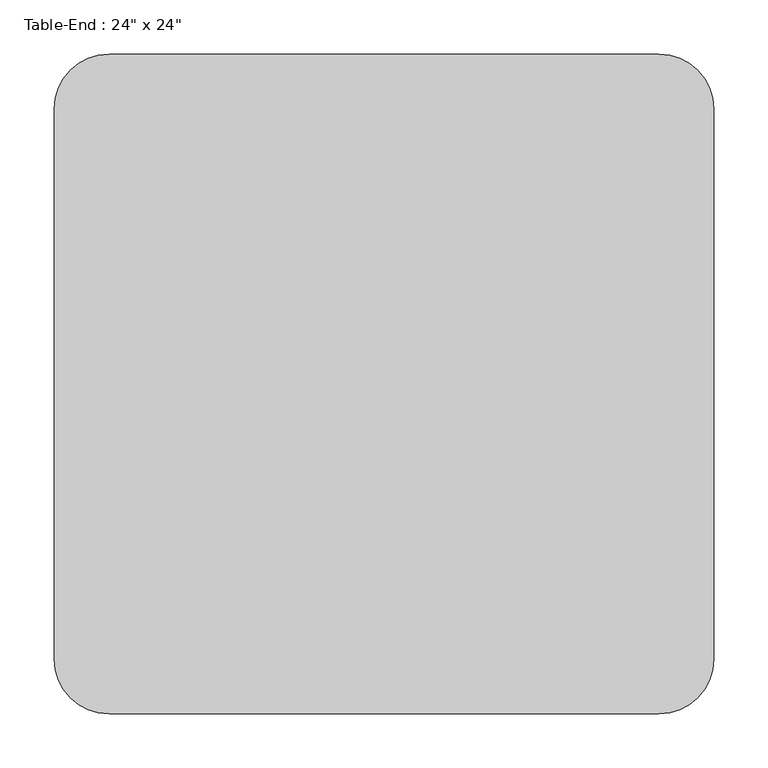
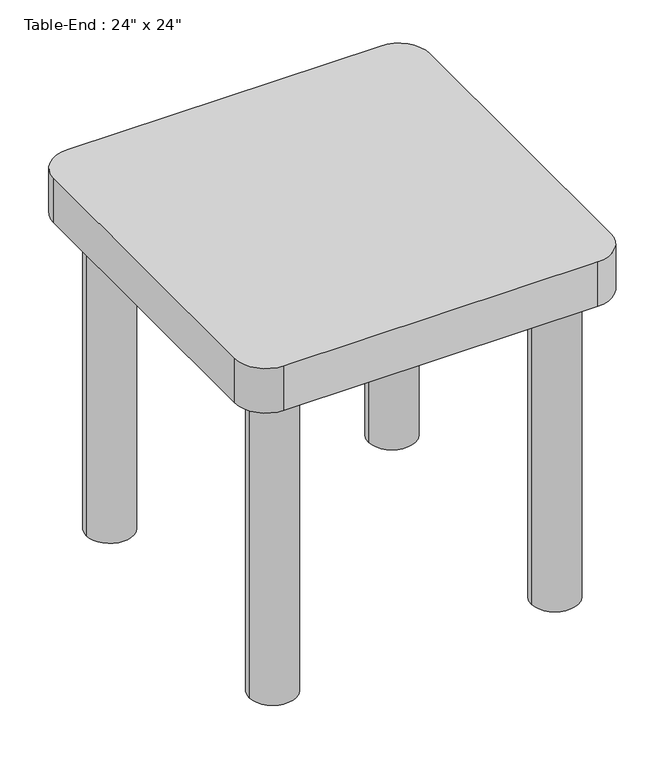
"""IFC4 building model written with IfcOpenShell, lengths in millimetres: furniture geometry."""

from ifc_helpers import new_model, si_unit, point, frame, frame_2d, origin, origin_with_axes, place, context, project, spatial, polyline, circle_curve, trimmed, segment, composite_curve, outline, extrude, source, transform, mapped, element, save


def furniture_60c3fc03(model_context):
    return source(origin(), model_context, "Body", "SweptSolid", [
        extrude(outline(composite_curve([segment(trimmed(circle_curve(frame_2d((562.5336303, 101.6)), 50.8), [point((562.5336303, 152.4))], [point((613.3336303, 101.6))], False, "CARTESIAN"), True, "CONTINUOUS"), segment(polyline([(613.3336303, 101.6), (613.3336303, -406.4)]), True, "CONTINUOUS"), segment(trimmed(circle_curve(frame_2d((562.5336303, -406.4)), 50.8), [point((613.3336303, -406.4))], [point((562.5336303, -457.2))], False, "CARTESIAN"), True, "CONTINUOUS"), segment(polyline([(562.5336303, -457.2), (54.5336303, -457.2)]), True, "CONTINUOUS"), segment(trimmed(circle_curve(frame_2d((54.5336303, -406.4)), 50.8), [point((54.5336303, -457.2))], [point((3.7336303, -406.4))], False, "CARTESIAN"), True, "CONTINUOUS"), segment(polyline([(3.7336303, -406.4), (3.7336303, 101.6)]), True, "CONTINUOUS"), segment(trimmed(circle_curve(frame_2d((54.5336303, 101.6)), 50.8), [point((3.7336303, 101.6))], [point((54.5336303, 152.4))], False, "CARTESIAN"), True, "CONTINUOUS"), segment(polyline([(54.5336303, 152.4), (562.5336303, 152.4)]), True, "CONTINUOUS")], self_intersect=False)), frame((0.0, 0.0, 533.4), z_axis=(0.0, 0.0, 1.0), x_axis=(1.0, 0.0, 0.0)), (0.0, 0.0, 1.0), 76.2),
        extrude(outline(composite_curve([segment(trimmed(circle_curve(frame_2d((79.9336303, -381.0)), 38.1), [point((41.8336303, -381.0))], [point((118.0336303, -381.0))], False, "CARTESIAN"), True, "CONTINUOUS"), segment(trimmed(circle_curve(frame_2d((79.9336303, -381.0)), 38.1), [point((118.0336303, -381.0))], [point((41.8336303, -381.0))], False, "CARTESIAN"), True, "CONTINUOUS")], self_intersect=False)), origin_with_axes(), (0.0, 0.0, 1.0), 533.4),
        extrude(outline(composite_curve([segment(trimmed(circle_curve(frame_2d((79.9336303, 76.2)), 38.1), [point((41.8336303, 76.2))], [point((118.0336303, 76.2))], False, "CARTESIAN"), True, "CONTINUOUS"), segment(trimmed(circle_curve(frame_2d((79.9336303, 76.2)), 38.1), [point((118.0336303, 76.2))], [point((41.8336303, 76.2))], False, "CARTESIAN"), True, "CONTINUOUS")], self_intersect=False)), origin_with_axes(), (0.0, 0.0, 1.0), 533.4),
        extrude(outline(composite_curve([segment(trimmed(circle_curve(frame_2d((537.1336303, 76.2)), 38.1), [point((499.0336303, 76.2))], [point((575.2336303, 76.2))], False, "CARTESIAN"), True, "CONTINUOUS"), segment(trimmed(circle_curve(frame_2d((537.1336303, 76.2)), 38.1), [point((575.2336303, 76.2))], [point((499.0336303, 76.2))], False, "CARTESIAN"), True, "CONTINUOUS")], self_intersect=False)), origin_with_axes(), (0.0, 0.0, 1.0), 533.4),
        extrude(outline(composite_curve([segment(trimmed(circle_curve(frame_2d((537.1336303, -381.0)), 38.1), [point((499.0336303, -381.0))], [point((575.2336303, -381.0))], False, "CARTESIAN"), True, "CONTINUOUS"), segment(trimmed(circle_curve(frame_2d((537.1336303, -381.0)), 38.1), [point((575.2336303, -381.0))], [point((499.0336303, -381.0))], False, "CARTESIAN"), True, "CONTINUOUS")], self_intersect=False)), origin_with_axes(), (0.0, 0.0, 1.0), 533.4),
    ])


if __name__ == "__main__":
    model = new_model("IFC4")
    model_context = context("Model", 3, world=origin())
    ifc_project = project(units=[si_unit("LENGTHUNIT", "METRE", prefix="MILLI")], contexts=[model_context])
    site = spatial("IfcSite", under=ifc_project)
    building = spatial("IfcBuilding", under=site)
    placement = place(None, origin())
    furniture_shape = furniture_60c3fc03(model_context)
    element("IfcFurniture", 1, ObjectType="Table-End : 24\" x 24\"", at=placement, inside=building, context=model_context, shape_type="MappedRepresentation", body=[
        mapped(furniture_shape, transform((0.0, 0.0, 0.0), x_axis=(1.0, 0.0, 0.0), y_axis=(0.0, 1.0, 0.0), z_axis=(0.0, 0.0, 1.0))),
    ])
    save(model, "model.ifc")
